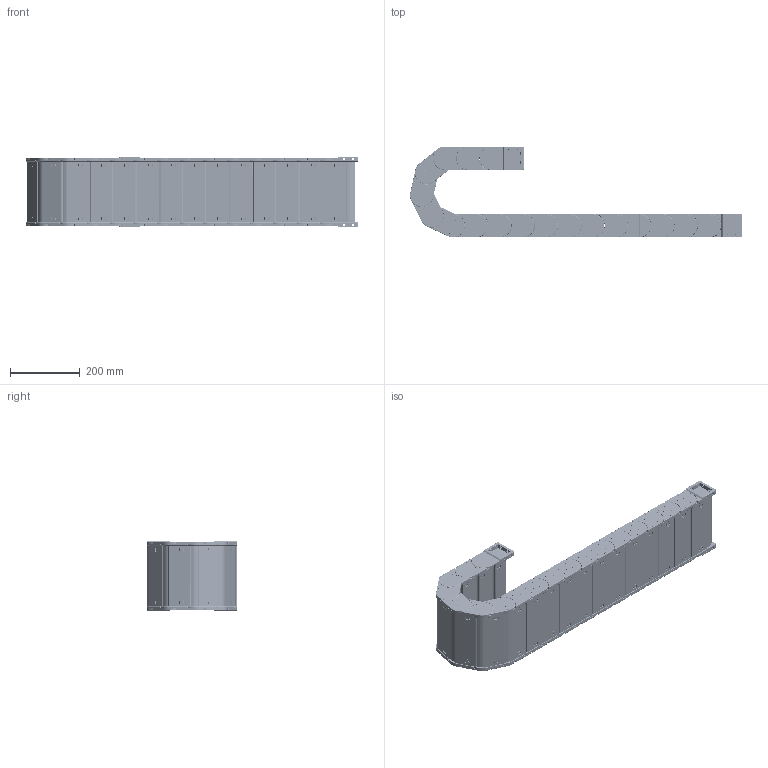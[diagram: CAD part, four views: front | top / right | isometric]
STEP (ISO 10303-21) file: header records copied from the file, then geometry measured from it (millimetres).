
FILE_DESCRIPTION (( 'STEP AP214' ), '1' );
FILE_NAME ('J45F.1.175S-3D賦凳芞.STEP', '2019-01-09T08:35:04', ( 'Sky123.Org' ), ( 'Sky123.Org' ), 'SwSTEP 2.0', 'SolidWorks 2017', '' );
FILE_SCHEMA (( 'AUTOMOTIVE_DESIGN' ));
Length unit declared in the file: millimetre
Products named in the file (11): 5-N45X100-源諉俋 - 萵掛; 45-N源諉芛俋; 5-N45X100-源諉囀 - 萵掛; 45-臏簽1; 45-N源諉芛囀; N45FX75-等誹1 - 萵掛; H35X75-FBP-W猾敕え; H35-J45-FBP-N猾敕え; 45-崝Ч翋极2; 45-崝Ч翋极1; J45F.1.175S-3D賦凳芞
Assembly tree (55 placements, depth 3):
  J45F.1.175S-3D賦凳芞
    N45FX75-等誹1 - 萵掛  x17
      45-崝Ч翋极1
      45-崝Ч翋极2
      H35-J45-FBP-N猾敕え
      H35X75-FBP-W猾敕え
    5-N45X100-源諉囀 - 萵掛
      45-N源諉芛囀  x2
      45-臏簽1  x12
      H35-J45-FBP-N猾敕え
      H35X75-FBP-W猾敕え
    5-N45X100-源諉俋 - 萵掛
      45-N源諉芛俋  x2
      45-臏簽1  x12
      H35-J45-FBP-N猾敕え
      H35X75-FBP-W猾敕え
Bounding box: 954.91 x 261 x 204 mm (x, y, z)
Volume: 3827722.5 mm3; surface area: 2233212.7 mm2
Topology: 100 solids, 100 shells, 23329 faces, 63191 edges, 39614 vertices
Faces by surface type: plane 12592, bspline 5004, cylinder 4977, torus 748, sphere 8
Entity records: 55392 total; most frequent: CARTESIAN_POINT 19957, ORIENTED_EDGE 7662, DIRECTION 6605, EDGE_CURVE 3831, VECTOR 2491, LINE 2491, VERTEX_POINT 2452, AXIS2_PLACEMENT_3D 2057
